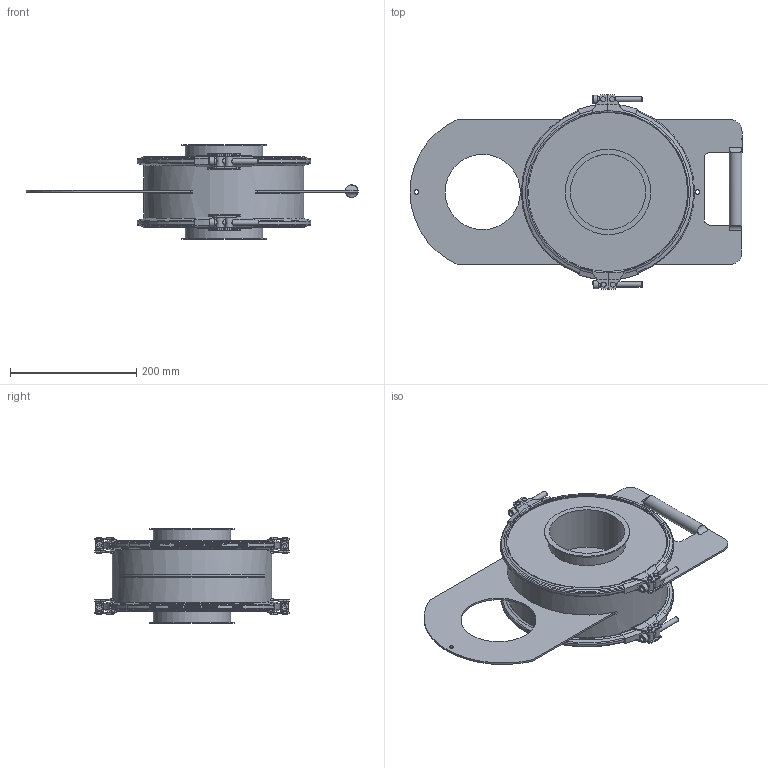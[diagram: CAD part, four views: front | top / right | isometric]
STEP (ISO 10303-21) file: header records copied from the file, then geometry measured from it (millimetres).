
FILE_DESCRIPTION((''),'2;1');
FILE_NAME('U:\Wolfgang\Marcel-3D\fertig\Kapitel 9\1221081.stp','2011-10-11T12:56:53',('iwienholt'),(''),'Autodesk Inventor 2010','Autodesk Inventor 2010','');
FILE_SCHEMA(('AUTOMOTIVE_DESIGN { 1 0 10303 214 1 1 1 1 }'));
Length unit declared in the file: millimetre
Products named in the file (10): 1221081; Rohr DN120; Schieber DN120; 2522055; 2522055-1; Verschluss b=274; Verschlussrolle; VerschlussrolleGewinde; ISO 4762 M8 x 70; 2522055-Dichtmasse
Assembly tree (17 placements, depth 3):
  1221081
    Rohr DN120
    Schieber DN120
    2522055  x2
      2522055-1
      Verschluss b=274
      Verschlussrolle
      VerschlussrolleGewinde
      ISO 4762 M8 x 70
      2522055-Dichtmasse
Bounding box: 525 x 307.99 x 150 mm (x, y, z)
Volume: 1123990.1 mm3; surface area: 867063.4 mm2
Topology: 28 solids, 28 shells, 870 faces, 2306 edges, 1522 vertices
Faces by surface type: cylinder 269, plane 246, bspline 175, cone 144, torus 36
Full cylindrical faces by diameter (mm): 5 x16, 6 x4, 8 x20, 12 x8, 13 x4, 20 x1, 119 x3, 123 x4, 135 x1, 249 x1, 252 x2, 253 x1, 265 x1, 270 x2
Entity records: 7263 total; most frequent: CARTESIAN_POINT 2393, DIRECTION 978, ORIENTED_EDGE 890, EDGE_CURVE 445, AXIS2_PLACEMENT_3D 392, VERTEX_POINT 317, EDGE_LOOP 274, FACE_OUTER_BOUND 199
